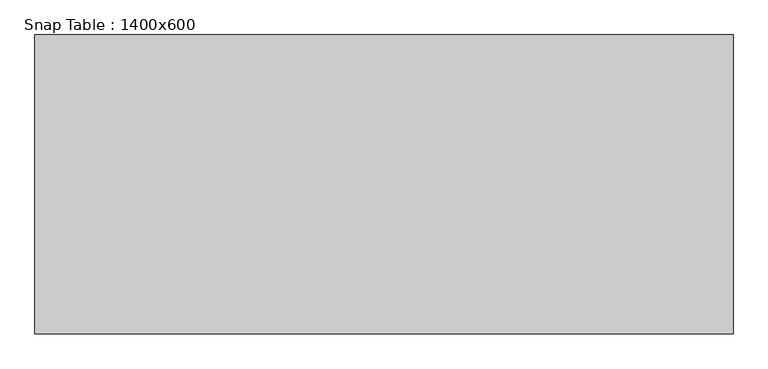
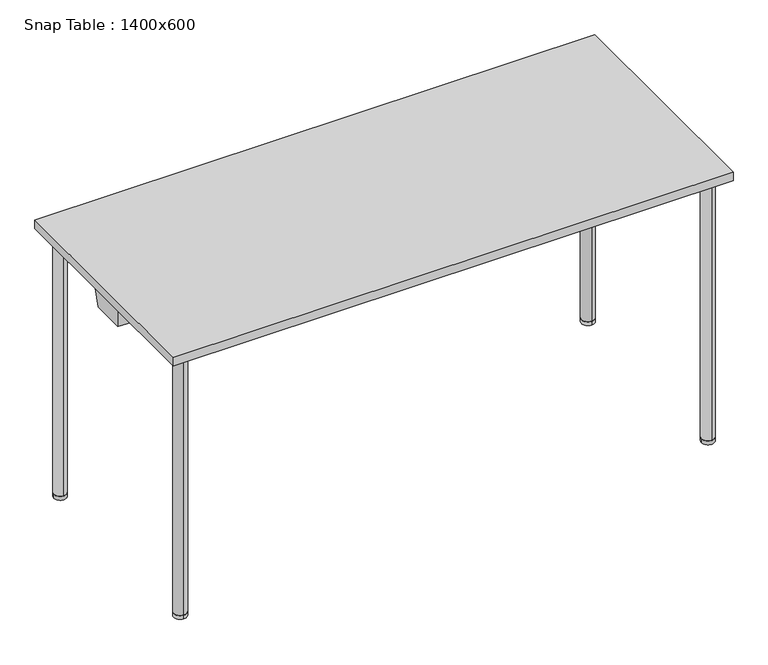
"""IFC4 building model written with IfcOpenShell, lengths in millimetres: furniture geometry, Snap Table : 1400x600."""

from ifc_helpers import new_model, si_unit, point, frame, frame_2d, origin, origin_with_axes, place, context, project, spatial, polyline, circle_curve, ellipse_curve, trimmed, segment, composite_curve, outline, extrude, faceted_brep, source, transform, mapped, element, save
from ifc_brep_helpers import plane_surface, cylinder_surface, revolved_surface, advanced_brep


def snap_table_1400x600_45ec9ba3(model_context):
    return source(origin(), model_context, "Body", "SolidModel", [
        extrude(outline(composite_curve([segment(trimmed(circle_curve(frame_2d((660.0, -260.0)), 16.0), [point((676.0, -260.0))], [point((644.0, -260.0))], False, "CARTESIAN"), True, "CONTINUOUS"), segment(trimmed(circle_curve(frame_2d((660.0, -260.0)), 16.0), [point((644.0, -260.0))], [point((676.0, -260.0))], False, "CARTESIAN"), True, "CONTINUOUS")], self_intersect=False)), origin_with_axes(), (0.0, 0.0, 1.0), 10.0),
        extrude(outline(composite_curve([segment(trimmed(circle_curve(frame_2d((660.0, 260.0)), 16.0), [point((660.0, 244.0))], [point((660.0, 276.0))], False, "CARTESIAN"), True, "CONTINUOUS"), segment(trimmed(circle_curve(frame_2d((660.0, 260.0)), 16.0), [point((660.0, 276.0))], [point((660.0, 244.0))], False, "CARTESIAN"), True, "CONTINUOUS")], self_intersect=False)), origin_with_axes(), (0.0, 0.0, 1.0), 10.0),
        advanced_brep(
        [(660.0, -276.0, 10.0), (660.0, -244.0, 10.0), (660.0, -276.0, 689.0), (660.0, -244.0, 657.0), (660.0, 276.0, 689.0), (660.0, 244.0, 657.0), (660.0, 276.0, 10.0), (660.0, 244.0, 10.0)],
        [
            (0, 1, circle_curve(frame((660.0, -260.0, 10.0), z_axis=(0.0, 0.0, -1.0), x_axis=(0.0, 1.0, 0.0)), 16.0)),
            (1, 0, circle_curve(frame((660.0, -260.0, 10.0), z_axis=(0.0, 0.0, -1.0), x_axis=(0.0, 1.0, 0.0)), 16.0)),
            (0, 2),
            (2, 3, ellipse_curve(frame((660.0, -260.0, 673.0), z_axis=(0.0, -0.7071067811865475, -0.7071067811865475), x_axis=(0.0, 0.7071067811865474, -0.7071067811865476)), 22.627417, 16.0)),
            (3, 1),
            (3, 2, ellipse_curve(frame((660.0, -260.0, 673.0), z_axis=(0.0, -0.7071067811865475, -0.7071067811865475), x_axis=(0.0, 0.7071067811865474, -0.7071067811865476)), 22.627417, 16.0)),
            (2, 4),
            (4, 5, ellipse_curve(frame((660.0, 260.0, 673.0), z_axis=(0.0, -0.7071067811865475, 0.7071067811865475), x_axis=(0.0, -0.7071067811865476, -0.7071067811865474)), 22.627417, 16.0)),
            (5, 3),
            (5, 4, ellipse_curve(frame((660.0, 260.0, 673.0), z_axis=(0.0, -0.7071067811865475, 0.7071067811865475), x_axis=(0.0, -0.7071067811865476, -0.7071067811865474)), 22.627417, 16.0)),
            (6, 7, circle_curve(frame((660.0, 260.0, 10.0), z_axis=(0.0, 0.0, -1.0), x_axis=(0.0, -1.0, 0.0)), 16.0)),
            (7, 6, circle_curve(frame((660.0, 260.0, 10.0), z_axis=(0.0, 0.0, -1.0), x_axis=(0.0, -1.0, 0.0)), 16.0)),
            (4, 6),
            (7, 5),
        ],
        [
            plane_surface(frame((660.0, -260.0, 10.0), z_axis=(0.0, 0.0, -1.0), x_axis=(-1.0, 0.0, 0.0))),
            cylinder_surface(frame((660.0, -260.0, 10.0), z_axis=(0.0, 0.0, -1.0), x_axis=(0.0, 1.0, 0.0)), 16.0),
            cylinder_surface(frame((660.0, -260.0, 673.0), z_axis=(0.0, -1.0, 0.0), x_axis=(0.0, 0.0, -1.0)), 16.0),
            plane_surface(frame((660.0, 260.0, 10.0), z_axis=(0.0, 0.0, -1.0), x_axis=(-1.0, 0.0, 0.0))),
            cylinder_surface(frame((660.0, 260.0, 673.0), z_axis=(0.0, 0.0, 1.0), x_axis=(0.0, -1.0, 0.0)), 16.0),
        ],
        [
            (0, [[1, 2]]),
            (1, [[-1, 3, 4, 5]]),
            (1, [[-2, -5, 6, -3]]),
            (2, [[-4, 7, 8, 9]]),
            (2, [[-6, -9, 10, -7]]),
            (3, [[11, 12]]),
            (4, [[-8, 13, -12, 14]]),
            (4, [[-10, -14, -11, -13]]),
        ],
    ),
        extrude(outline(composite_curve([segment(trimmed(circle_curve(frame_2d((-660.0470276, 260.0)), 16.0), [point((-676.0470276, 260.0))], [point((-644.0470276, 260.0))], False, "CARTESIAN"), True, "CONTINUOUS"), segment(trimmed(circle_curve(frame_2d((-660.0470276, 260.0)), 16.0), [point((-644.0470276, 260.0))], [point((-676.0470276, 260.0))], False, "CARTESIAN"), True, "CONTINUOUS")], self_intersect=False)), origin_with_axes(), (0.0, 0.0, 1.0), 10.0),
        extrude(outline(composite_curve([segment(trimmed(circle_curve(frame_2d((-660.0470276, -260.0)), 16.0), [point((-660.0470276, -244.0))], [point((-660.0470276, -276.0))], False, "CARTESIAN"), True, "CONTINUOUS"), segment(trimmed(circle_curve(frame_2d((-660.0470276, -260.0)), 16.0), [point((-660.0470276, -276.0))], [point((-660.0470276, -244.0))], False, "CARTESIAN"), True, "CONTINUOUS")], self_intersect=False)), origin_with_axes(), (0.0, 0.0, 1.0), 10.0),
        advanced_brep(
        [(-660.0470276, 276.0, 10.0), (-660.0470276, 244.0, 10.0), (-660.0470276, 276.0, 689.0), (-660.0470276, 244.0, 657.0), (-660.0470276, -276.0, 689.0), (-660.0470276, -244.0, 657.0), (-660.0470276, -276.0, 10.0), (-660.0470276, -244.0, 10.0)],
        [
            (0, 1, circle_curve(frame((-660.0470276, 260.0, 10.0), z_axis=(0.0, 0.0, -1.0), x_axis=(0.0, -1.0, 0.0)), 16.0)),
            (1, 0, circle_curve(frame((-660.0470276, 260.0, 10.0), z_axis=(0.0, 0.0, -1.0), x_axis=(0.0, -1.0, 0.0)), 16.0)),
            (0, 2),
            (2, 3, ellipse_curve(frame((-660.0470276, 260.0, 673.0), z_axis=(0.0, 0.7071067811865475, -0.7071067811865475), x_axis=(0.0, -0.7071067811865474, -0.7071067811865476)), 22.627417, 16.0)),
            (3, 1),
            (3, 2, ellipse_curve(frame((-660.0470276, 260.0, 673.0), z_axis=(0.0, 0.7071067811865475, -0.7071067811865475), x_axis=(0.0, -0.7071067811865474, -0.7071067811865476)), 22.627417, 16.0)),
            (2, 4),
            (4, 5, ellipse_curve(frame((-660.0470276, -260.0, 673.0), z_axis=(0.0, 0.7071067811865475, 0.7071067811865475), x_axis=(0.0, 0.7071067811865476, -0.7071067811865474)), 22.627417, 16.0)),
            (5, 3),
            (5, 4, ellipse_curve(frame((-660.0470276, -260.0, 673.0), z_axis=(0.0, 0.7071067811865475, 0.7071067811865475), x_axis=(0.0, 0.7071067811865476, -0.7071067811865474)), 22.627417, 16.0)),
            (6, 7, circle_curve(frame((-660.0470276, -260.0, 10.0), z_axis=(0.0, 0.0, -1.0), x_axis=(0.0, 1.0, 0.0)), 16.0)),
            (7, 6, circle_curve(frame((-660.0470276, -260.0, 10.0), z_axis=(0.0, 0.0, -1.0), x_axis=(0.0, 1.0, 0.0)), 16.0)),
            (4, 6),
            (7, 5),
        ],
        [
            plane_surface(frame((-660.0470276, 260.0, 10.0), z_axis=(0.0, 0.0, -1.0), x_axis=(1.0, 0.0, 0.0))),
            cylinder_surface(frame((-660.0470276, 260.0, 10.0), z_axis=(0.0, 0.0, -1.0), x_axis=(0.0, -1.0, 0.0)), 16.0),
            cylinder_surface(frame((-660.0470276, 260.0, 673.0), z_axis=(0.0, 1.0, 0.0), x_axis=(0.0, 0.0, -1.0)), 16.0),
            plane_surface(frame((-660.0470276, -260.0, 10.0), z_axis=(0.0, 0.0, -1.0), x_axis=(1.0, 0.0, 0.0))),
            cylinder_surface(frame((-660.0470276, -260.0, 673.0), z_axis=(0.0, 0.0, 1.0), x_axis=(0.0, 1.0, 0.0)), 16.0),
        ],
        [
            (0, [[1, 2]]),
            (1, [[-1, 3, 4, 5]]),
            (1, [[-2, -5, 6, -3]]),
            (2, [[-4, 7, 8, 9]]),
            (2, [[-6, -9, 10, -7]]),
            (3, [[11, 12]]),
            (4, [[-8, 13, -12, 14]]),
            (4, [[-10, -14, -11, -13]]),
        ],
    ),
        extrude(outline(polyline([(700.0, 300.0), (700.0, -300.0), (-700.0, -300.0), (-700.0, 300.0), (700.0, 300.0)])), frame((0.0, 0.0, 698.0), z_axis=(0.0, 0.0, 1.0), x_axis=(1.0, 0.0, 0.0)), (0.0, 0.0, 1.0), 22.0),
        advanced_brep(
        [(-690.8110657, 42.2236058, 643.0), (-657.6910354, 44.5767873, 643.0), (-640.5708933, 36.0824003, 643.0), (640.5710292, 36.0824678, 643.0), (657.6910354, 44.5767873, 643.0), (690.8110657, 42.2236058, 643.0), (690.8110657, -42.2236058, 643.0), (657.6044607, -44.2417031, 643.0), (640.4018781, -36.0497649, 643.0), (-640.4020196, -36.0498323, 643.0), (-657.6044607, -44.2417031, 643.0), (-690.8110657, -42.2236058, 643.0), (-694.8110657, 48.9570516, 698.0), (-694.8110657, -48.9934252, 698.0), (-656.225892, -51.3383995, 698.0), (-634.6205129, -41.049832, 698.0), (634.6203726, -41.0497652, 698.0), (656.225892, -51.3383995, 698.0), (694.8110657, -48.9934252, 698.0), (694.8110657, 48.9570516, 698.0), (656.286594, 51.6942192, 698.0), (634.8989768, 41.0824675, 698.0), (-634.8988421, 41.0824006, 698.0), (-656.286594, 51.6942192, 698.0), (-657.2475737, -46.0789118, 657.2385232), (-676.0, -46.9489596, 673.0), (-656.4614069, -50.125999, 688.6037931), (-644.0, -41.9922101, 673.0), (657.2475737, -46.0789118, 657.2385232), (644.0, -41.9922101, 673.0), (656.4614069, -50.125999, 688.6037931), (676.0, -46.9489596, 673.0), (657.3278029, 46.4175782, 657.2247231), (676.0, 47.1037405, 673.0), (656.5261576, 50.4801582, 688.618336), (644.0, 42.0461233, 673.0), (-657.3278029, 46.4175782, 657.2247231), (-644.0, 42.0461233, 673.0), (-656.5261576, 50.4801582, 688.618336), (-676.0, 47.1037405, 673.0)],
        [
            (0, 1),
            (1, 2),
            (2, 3),
            (3, 4),
            (4, 5),
            (5, 6),
            (6, 7),
            (7, 8),
            (8, 9),
            (9, 10),
            (10, 11),
            (11, 0),
            (12, 13),
            (13, 14),
            (14, 15),
            (15, 16),
            (16, 17),
            (17, 18),
            (18, 19),
            (19, 20),
            (20, 21),
            (21, 22),
            (22, 23),
            (23, 12),
            (11, 13),
            (12, 0),
            (10, 24),
            (24, 25, ellipse_curve(frame((-660.0, -47.9213432, 673.0), z_axis=(0.060176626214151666, 0.9901710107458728, 0.12625427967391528), x_axis=(0.426028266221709, -0.13986196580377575, 0.8938336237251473)), 16.1588249, 16.0)),
            (25, 26, ellipse_curve(frame((-660.0, -47.9213432, 673.0), z_axis=(0.060176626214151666, 0.9901710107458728, 0.12625427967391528), x_axis=(0.426028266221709, -0.13986196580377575, 0.8938336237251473)), 16.1588249, 16.0)),
            (26, 14),
            (9, 15),
            (26, 27, ellipse_curve(frame((-660.0, -49.6114737, 673.0), z_axis=(-0.4265030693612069, 0.8956310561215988, 0.12625427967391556), x_axis=(-0.8587935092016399, -0.44479771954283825, 0.25422174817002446)), 17.8644989, 16.0)),
            (27, 24, ellipse_curve(frame((-660.0, -49.6114737, 673.0), z_axis=(-0.4265030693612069, 0.8956310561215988, 0.12625427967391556), x_axis=(-0.8587935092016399, -0.44479771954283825, 0.25422174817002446)), 17.8644989, 16.0)),
            (8, 16),
            (7, 28),
            (28, 29, ellipse_curve(frame((660.0, -49.6114737, 673.0), z_axis=(0.4265030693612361, 0.8956310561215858, 0.1262542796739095), x_axis=(0.8587935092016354, -0.4447977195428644, 0.25422174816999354)), 17.8644989, 16.0)),
            (29, 30, ellipse_curve(frame((660.0, -49.6114737, 673.0), z_axis=(0.4265030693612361, 0.8956310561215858, 0.1262542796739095), x_axis=(0.8587935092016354, -0.4447977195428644, 0.25422174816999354)), 17.8644989, 16.0)),
            (30, 17),
            (6, 18),
            (30, 31, ellipse_curve(frame((660.0, -47.9213432, 673.0), z_axis=(-0.06017662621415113, 0.9901710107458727, 0.12625427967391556), x_axis=(-0.426028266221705, -0.1398619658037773, 0.8938336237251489)), 16.1588249, 16.0)),
            (31, 28, ellipse_curve(frame((660.0, -47.9213432, 673.0), z_axis=(-0.06017662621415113, 0.9901710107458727, 0.12625427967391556), x_axis=(-0.426028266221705, -0.1398619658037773, 0.8938336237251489)), 16.1588249, 16.0)),
            (5, 19),
            (4, 32),
            (32, 33, ellipse_curve(frame((660.0, 48.2405422, 673.0), z_axis=(-0.0703043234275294, -0.9895034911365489, 0.12625427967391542), x_axis=(0.4813983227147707, -0.14450896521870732, -0.8645072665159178)), 16.1697257, 16.0)),
            (33, 34, ellipse_curve(frame((660.0, 48.2405422, 673.0), z_axis=(-0.0703043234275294, -0.9895034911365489, 0.12625427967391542), x_axis=(0.4813983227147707, -0.14450896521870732, -0.8645072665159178)), 16.1697257, 16.0)),
            (34, 20),
            (3, 21),
            (34, 35, ellipse_curve(frame((660.0, 49.9847369, 673.0), z_axis=(0.4409053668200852, -0.8886294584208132, 0.12625427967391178), x_axis=(-0.854294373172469, -0.45862586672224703, -0.24462918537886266)), 18.005255, 16.0)),
            (35, 32, ellipse_curve(frame((660.0, 49.9847369, 673.0), z_axis=(0.4409053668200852, -0.8886294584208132, 0.12625427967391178), x_axis=(-0.854294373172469, -0.45862586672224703, -0.24462918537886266)), 18.005255, 16.0)),
            (2, 22),
            (1, 36),
            (36, 37, ellipse_curve(frame((-660.0, 49.9847369, 673.0), z_axis=(-0.44090536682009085, -0.8886294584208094, 0.12625427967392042), x_axis=(0.8542943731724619, -0.45862586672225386, -0.24462918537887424)), 18.005255, 16.0)),
            (37, 38, ellipse_curve(frame((-660.0, 49.9847369, 673.0), z_axis=(-0.44090536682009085, -0.8886294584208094, 0.12625427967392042), x_axis=(0.8542943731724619, -0.45862586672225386, -0.24462918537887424)), 18.005255, 16.0)),
            (38, 23),
            (38, 39, ellipse_curve(frame((-660.0, 48.2405422, 673.0), z_axis=(0.07030432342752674, -0.9895034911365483, 0.12625427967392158), x_axis=(-0.48139832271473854, -0.14450896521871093, -0.8645072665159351)), 16.1697257, 16.0)),
            (39, 36, ellipse_curve(frame((-660.0, 48.2405422, 673.0), z_axis=(0.07030432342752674, -0.9895034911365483, 0.12625427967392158), x_axis=(-0.48139832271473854, -0.14450896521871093, -0.8645072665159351)), 16.1697257, 16.0)),
            (35, 29),
            (31, 33),
            (39, 25),
            (27, 37),
        ],
        [
            plane_surface(frame((-5e-07, 0.0612866, 643.0), z_axis=(0.0, 0.0, -1.0), x_axis=(0.0, -1.0, 0.0))),
            plane_surface(frame((-5e-07, 0.0586803, 698.0), z_axis=(0.0, 0.0, 1.0), x_axis=(0.0, -1.0, 0.0))),
            plane_surface(frame((-694.8110657, -0.0181868, 698.0), z_axis=(-0.9973658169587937, 0.0, -0.07253569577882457), x_axis=(0.0, 1.0, 0.0))),
            plane_surface(frame((-675.5184789, -50.1659123, 698.0), z_axis=(-0.060176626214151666, -0.9901710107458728, -0.12625427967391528), x_axis=(-0.9981583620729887, 0.06066204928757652, 0.0))),
            plane_surface(frame((-645.4232025, -46.1941158, 698.0), z_axis=(0.4265030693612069, -0.8956310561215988, -0.12625427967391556), x_axis=(-0.9028557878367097, -0.4299435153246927, 0.0))),
            plane_surface(frame((-7.01e-05, -41.0497986, 698.0), z_axis=(5.2413477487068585e-08, -0.9958932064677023, -0.09053574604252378), x_axis=(-0.9999999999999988, -5.262961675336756e-08, 0.0))),
            plane_surface(frame((645.4231323, -46.1940824, 698.0), z_axis=(-0.4265030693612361, -0.8956310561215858, -0.1262542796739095), x_axis=(-0.9028557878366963, 0.42994351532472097, 0.0))),
            plane_surface(frame((675.5184789, -50.1659123, 698.0), z_axis=(0.060176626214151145, -0.9901710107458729, -0.1262542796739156), x_axis=(-0.9981583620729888, -0.060662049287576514, 0.0))),
            plane_surface(frame((694.8110657, -0.0181868, 698.0), z_axis=(0.997365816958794, 0.0, -0.07253569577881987), x_axis=(0.0, -1.0, 0.0))),
            plane_surface(frame((675.5488298, 50.3256354, 698.0), z_axis=(0.0703043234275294, 0.9895034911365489, -0.12625427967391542), x_axis=(0.9974854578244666, -0.07087144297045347, 0.0))),
            plane_surface(frame((645.5927854, 46.3883433, 698.0), z_axis=(-0.4409053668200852, 0.8886294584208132, -0.12625427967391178), x_axis=(0.8957977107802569, 0.44446199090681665, 0.0))),
            plane_surface(frame((6.73e-05, 41.082434, 698.0), z_axis=(-5.2413477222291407e-08, 0.9958932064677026, -0.09053574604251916), x_axis=(0.9999999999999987, 5.2629615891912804e-08, 0.0))),
            plane_surface(frame((-645.5927181, 46.3883099, 698.0), z_axis=(0.44090536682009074, 0.8886294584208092, -0.1262542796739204), x_axis=(0.8957977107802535, -0.4444619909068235, 0.0))),
            plane_surface(frame((-675.5488298, 50.3256354, 698.0), z_axis=(-0.07030432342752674, 0.9895034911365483, -0.12625427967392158), x_axis=(0.9974854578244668, 0.07087144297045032, 0.0))),
            revolved_surface(polyline([(676.0, -57.55756207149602, 673.0), (676.0, 58.242412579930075, 673.0)]), (660.0, 70.0, 673.0), (0.0, -1.0, 0.0)),
            revolved_surface(polyline([(-676.0, -57.55756207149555, 673.0), (-676.0, 58.242412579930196, 673.0)]), (-660.0, 70.0, 673.0), (0.0, -1.0, 0.0)),
        ],
        [
            (0, [[1, 2, 3, 4, 5, 6, 7, 8, 9, 10, 11, 12]]),
            (1, [[13, 14, 15, 16, 17, 18, 19, 20, 21, 22, 23, 24]]),
            (2, [[-12, 25, -13, 26]]),
            (3, [[-11, 27, 28, 29, 30, -14, -25]]),
            (4, [[-10, 31, -15, -30, 32, 33, -27]]),
            (5, [[-9, 34, -16, -31]]),
            (6, [[-8, 35, 36, 37, 38, -17, -34]]),
            (7, [[-7, 39, -18, -38, 40, 41, -35]]),
            (8, [[-6, 42, -19, -39]]),
            (9, [[-5, 43, 44, 45, 46, -20, -42]]),
            (10, [[-4, 47, -21, -46, 48, 49, -43]]),
            (11, [[-3, 50, -22, -47]]),
            (12, [[-2, 51, 52, 53, 54, -23, -50]]),
            (13, [[-1, -26, -24, -54, 55, 56, -51]]),
            (14, [[57, -36, -41, 58, -44, -49]]),
            (14, [[-57, -48, -45, -58, -40, -37]]),
            (15, [[59, -28, -33, 60, -52, -56]]),
            (15, [[-59, -55, -53, -60, -32, -29]]),
        ],
    ),
        faceted_brep([(630.1271057, 182.1409864, 643.0), (630.1271057, 227.0366315, 643.0), (641.3990784, 227.0366315, 643.0), (641.3990784, 182.1409864, 643.0), (626.2186584, 178.0138349, 688.0), (644.2631531, 178.0138349, 688.0), (644.2631531, 231.163783, 688.0), (626.2186584, 231.163783, 688.0)], [[[0, 1, 2, 3]], [[4, 5, 6, 7]], [[5, 4, 0, 3]], [[6, 5, 3, 2]], [[7, 6, 2, 1]], [[4, 7, 1, 0]]]),
        extrude(outline(polyline([(626.2186584, 231.163783), (677.86026, 231.163783), (677.86026, 178.0138349), (626.2186584, 178.0138349), (626.2186584, 231.163783)])), frame((0.0, 0.0, 688.0), z_axis=(0.0, 0.0, 1.0), x_axis=(1.0, 0.0, 0.0)), (0.0, 0.0, 1.0), 10.0),
        faceted_brep([(630.1271057, -182.1409864, 643.0), (641.3990784, -182.1409864, 643.0), (641.3990784, -227.0366315, 643.0), (630.1271057, -227.0366315, 643.0), (626.2186584, -178.0138349, 688.0), (626.2186584, -231.163783, 688.0), (644.2631531, -231.163783, 688.0), (644.2631531, -178.0138349, 688.0)], [[[0, 1, 2, 3]], [[4, 5, 6, 7]], [[4, 7, 1, 0]], [[7, 6, 2, 1]], [[6, 5, 3, 2]], [[5, 4, 0, 3]]]),
        extrude(outline(polyline([(626.2186584, -231.163783), (626.2186584, -178.0138349), (677.86026, -178.0138349), (677.86026, -231.163783), (626.2186584, -231.163783)])), frame((0.0, 0.0, 688.0), z_axis=(0.0, 0.0, 1.0), x_axis=(1.0, 0.0, 0.0)), (0.0, 0.0, 1.0), 10.0),
        faceted_brep([(-630.1271057, 182.1409864, 643.0), (-641.3990784, 182.1409864, 643.0), (-641.3990784, 227.0366315, 643.0), (-630.1271057, 227.0366315, 643.0), (-626.2186584, 178.0138349, 688.0), (-626.2186584, 231.163783, 688.0), (-644.2631531, 231.163783, 688.0), (-644.2631531, 178.0138349, 688.0)], [[[0, 1, 2, 3]], [[4, 5, 6, 7]], [[4, 7, 1, 0]], [[7, 6, 2, 1]], [[6, 5, 3, 2]], [[5, 4, 0, 3]]]),
        extrude(outline(polyline([(-626.2186584, 231.163783), (-626.2186584, 178.0138349), (-677.86026, 178.0138349), (-677.86026, 231.163783), (-626.2186584, 231.163783)])), frame((0.0, 0.0, 688.0), z_axis=(0.0, 0.0, 1.0), x_axis=(1.0, 0.0, 0.0)), (0.0, 0.0, 1.0), 10.0),
        faceted_brep([(-630.1271057, -182.1409864, 643.0), (-630.1271057, -227.0366315, 643.0), (-641.3990784, -227.0366315, 643.0), (-641.3990784, -182.1409864, 643.0), (-626.2186584, -178.0138349, 688.0), (-644.2631531, -178.0138349, 688.0), (-644.2631531, -231.163783, 688.0), (-626.2186584, -231.163783, 688.0)], [[[0, 1, 2, 3]], [[4, 5, 6, 7]], [[5, 4, 0, 3]], [[6, 5, 3, 2]], [[7, 6, 2, 1]], [[4, 7, 1, 0]]]),
        extrude(outline(polyline([(-626.2186584, -231.163783), (-677.86026, -231.163783), (-677.86026, -178.0138349), (-626.2186584, -178.0138349), (-626.2186584, -231.163783)])), frame((0.0, 0.0, 688.0), z_axis=(0.0, 0.0, 1.0), x_axis=(1.0, 0.0, 0.0)), (0.0, 0.0, 1.0), 10.0),
    ])


if __name__ == "__main__":
    model = new_model("IFC4")
    model_context = context("Model", 3, world=origin())
    ifc_project = project(units=[si_unit("LENGTHUNIT", "METRE", prefix="MILLI")], contexts=[model_context])
    site = spatial("IfcSite", under=ifc_project)
    building = spatial("IfcBuilding", under=site)
    placement = place(None, origin())
    snap_table_1400x600_shape = snap_table_1400x600_45ec9ba3(model_context)
    element("IfcFurniture", 1, ObjectType="Snap Table : 1400x600", at=placement, inside=building, context=model_context, shape_type="MappedRepresentation", body=[
        mapped(snap_table_1400x600_shape, transform((0.0, 0.0, 0.0), x_axis=(1.0, 0.0, 0.0), y_axis=(0.0, 1.0, 0.0), z_axis=(0.0, 0.0, 1.0))),
    ])
    save(model, "model.ifc")
